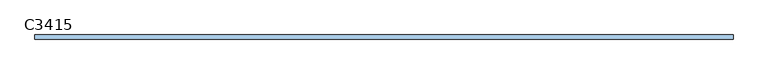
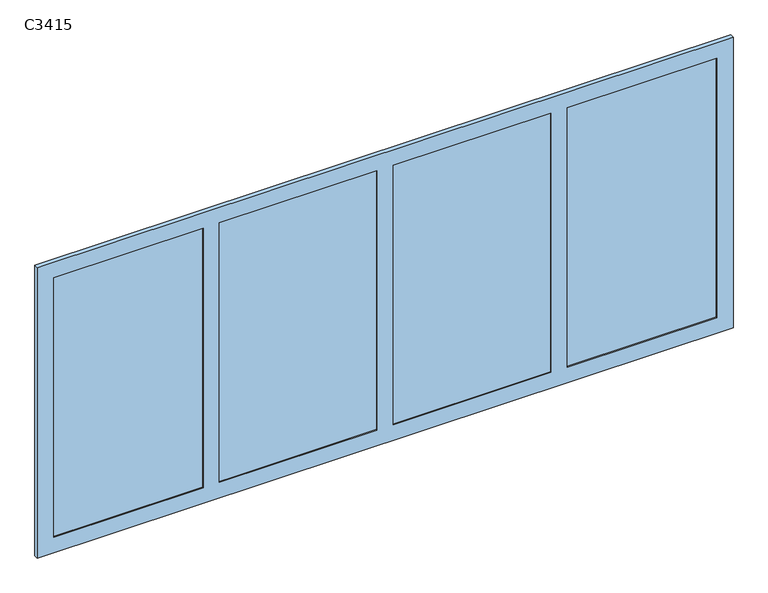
"""IFC4 building model written with IfcOpenShell, lengths in millimetres: window geometry, 窗户 : C3415."""

from ifc_helpers import new_model, si_unit, frame, origin, place, context, project, spatial, polyline, outline, extrude, source, transform, mapped, element, save


def c3415_a57d7b54(model_context):
    return source(origin(), model_context, "Body", "SweptSolid", [
        extrude(outline(polyline([(1620.0, 5.0), (1620.0, -5.0), (890.0, -5.0), (890.0, 5.0), (1620.0, 5.0)])), frame((0.0, 0.0, 880.0), z_axis=(0.0, 0.0, 1.0), x_axis=(1.0, 0.0, 0.0)), (0.0, 0.0, 1.0), 1340.0),
        extrude(outline(polyline([(810.0, 5.0), (810.0, -5.0), (40.0, -5.0), (40.0, 5.0), (810.0, 5.0)])), frame((0.0, 0.0, 880.0), z_axis=(0.0, 0.0, 1.0), x_axis=(1.0, 0.0, 0.0)), (0.0, 0.0, 1.0), 1340.0),
        extrude(outline(polyline([(-40.0, 5.0), (-40.0, -5.0), (-810.0, -5.0), (-810.0, 5.0), (-40.0, 5.0)])), frame((0.0, 0.0, 880.0), z_axis=(0.0, 0.0, 1.0), x_axis=(1.0, 0.0, 0.0)), (0.0, 0.0, 1.0), 1340.0),
        extrude(outline(polyline([(-890.0, 5.0), (-890.0, -5.0), (-1620.0, -5.0), (-1620.0, 5.0), (-890.0, 5.0)])), frame((0.0, 0.0, 880.0), z_axis=(0.0, 0.0, 1.0), x_axis=(1.0, 0.0, 0.0)), (0.0, 0.0, 1.0), 1340.0),
        extrude(outline(polyline([(2300.0, -1700.0), (800.0, -1700.0), (800.0, 1700.0), (2300.0, 1700.0), (2300.0, -1700.0)]), holes=[polyline([(2220.0, 890.0), (2220.0, 1620.0), (880.0, 1620.0), (880.0, 890.0), (2220.0, 890.0)]), polyline([(2220.0, 40.0), (2220.0, 810.0), (880.0, 810.0), (880.0, 40.0), (2220.0, 40.0)]), polyline([(2220.0, -810.0), (2220.0, -40.0), (880.0, -40.0), (880.0, -810.0), (2220.0, -810.0)]), polyline([(2220.0, -1620.0), (2220.0, -890.0), (880.0, -890.0), (880.0, -1620.0), (2220.0, -1620.0)])]), frame((0.0, -10.0, 0.0), z_axis=(0.0, 1.0, 0.0), x_axis=(0.0, 0.0, 1.0)), (0.0, 0.0, 1.0), 20.0),
    ])


if __name__ == "__main__":
    model = new_model("IFC4")
    model_context = context("Model", 3, world=origin())
    ifc_project = project(units=[si_unit("LENGTHUNIT", "METRE", prefix="MILLI")], contexts=[model_context])
    site = spatial("IfcSite", under=ifc_project)
    building = spatial("IfcBuilding", under=site)
    placement = place(None, origin())
    c3415_shape = c3415_a57d7b54(model_context)
    element("IfcWindow", 1, ObjectType="窗户 : C3415", at=placement, inside=building, context=model_context, shape_type="MappedRepresentation", body=[
        mapped(c3415_shape, transform((0.0, 0.0, 0.0), x_axis=(1.0, 0.0, 0.0), y_axis=(0.0, 1.0, 0.0), z_axis=(0.0, 0.0, 1.0))),
    ])
    save(model, "model.ifc")
